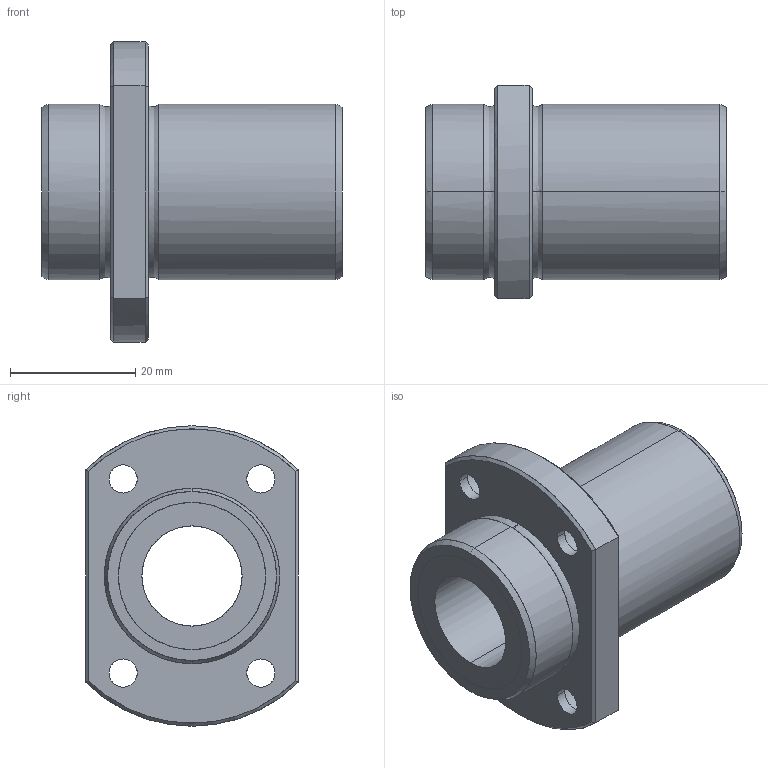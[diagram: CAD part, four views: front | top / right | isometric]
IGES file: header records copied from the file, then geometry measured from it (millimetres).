
Global section: file name: No Iges File Name specified; native system: AutoDesk Inventor R11.0; preprocessor: AutoDesk Inventor Iges Exporter R11.0; author: No Author specified; organization: No Organization specified; date: 20170921.134740; units: millimetre
Bounding box: 48 x 34 x 48 mm (x, y, z)
Surface area: 9839.5 mm2 (no closed solid volume)
Topology: 0 solids, 0 shells, 57 faces, 374 edges, 374 vertices
Faces by surface type: bspline 57
